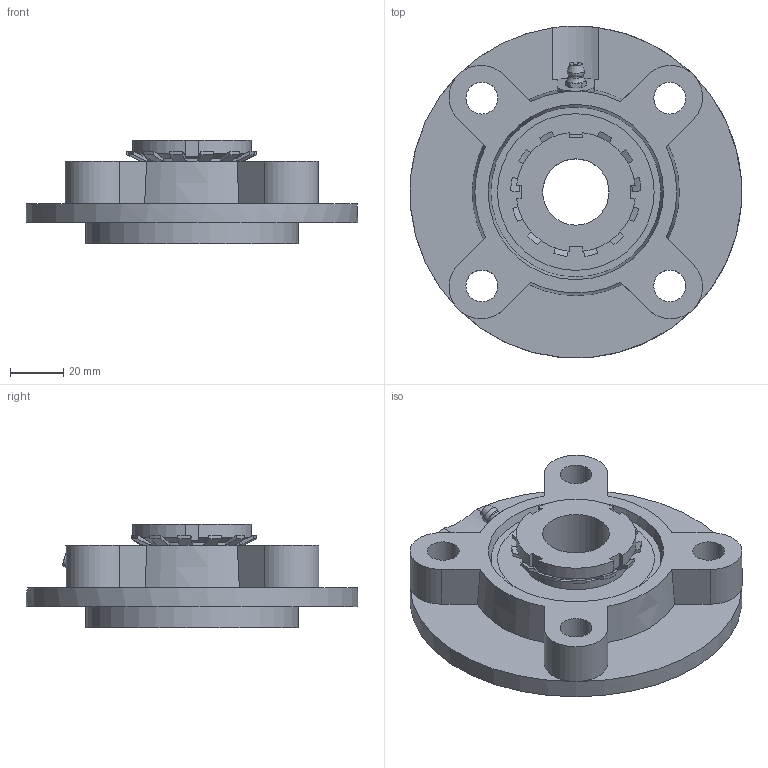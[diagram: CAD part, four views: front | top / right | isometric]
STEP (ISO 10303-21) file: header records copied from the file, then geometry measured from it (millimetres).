
FILE_DESCRIPTION((''),'2;1');
FILE_NAME('\\Ts-tgl068\j-cad-d-base\00.3DCADデータ作成フォルダ\02.フランジ形\UKFC200\UKFC206+H.stp','2014-11-20T16:42:16',('btec_1106_2'),(''),'Autodesk Inventor 2012','Autodesk Inventor 2012','');
FILE_SCHEMA(('AUTOMOTIVE_DESIGN { 1 0 10303 214 1 1 1 1 }'));
Length unit declared in the file: millimetre
Products named in the file (4): UKFC200+H; FC206; UK206; GU1
Assembly tree (3 placements, depth 2):
  UKFC200+H
    FC206
    UK206
    GU1
Bounding box: 124.85 x 124.9 x 39 mm (x, y, z)
Volume: 186541.4 mm3; surface area: 54058.6 mm2
Topology: 3 solids, 3 shells, 186 faces, 490 edges, 317 vertices
Faces by surface type: plane 79, cone 54, cylinder 45, sphere 4, bspline 2, torus 2
Full cylindrical faces by diameter (mm): 5.359 x1, 6.35 x1, 12 x4, 25 x1, 40.5 x2, 80 x1, 125 x1
Entity records: 5686 total; most frequent: CARTESIAN_POINT 1337, ORIENTED_EDGE 920, DIRECTION 861, EDGE_CURVE 460, AXIS2_PLACEMENT_3D 352, VERTEX_POINT 306, EDGE_LOOP 229, FACE_OUTER_BOUND 186
